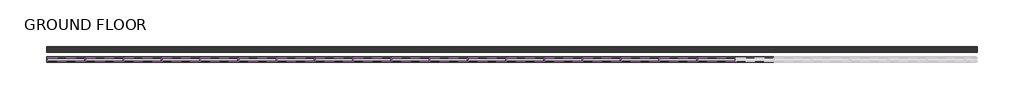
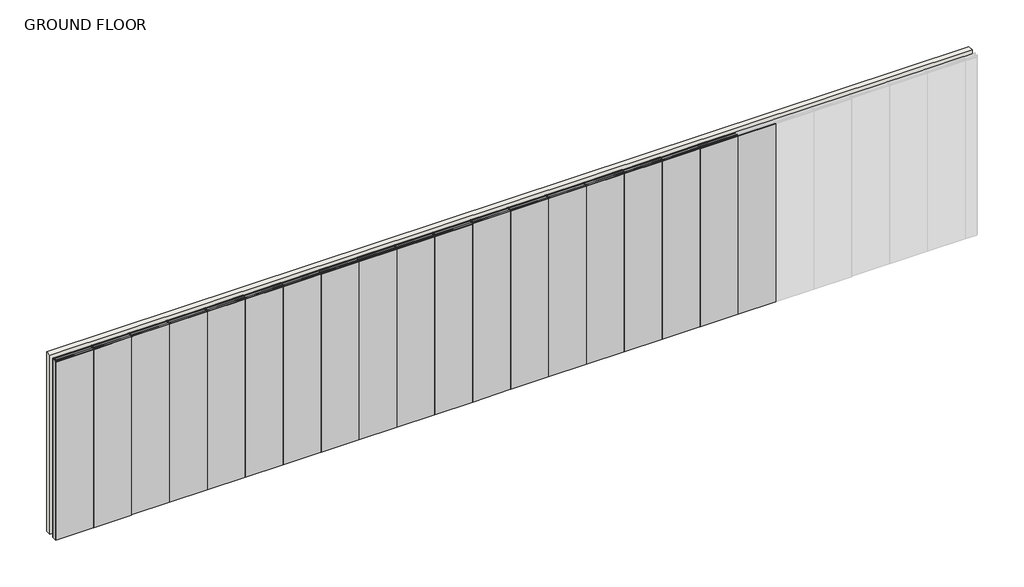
# One storey, part 1 of 2: 54 members, 19 plates, 1 wall.
"""IFC4 building model written with IfcOpenShell, lengths in millimetres."""

from ifc_helpers import new_model, si_unit, origin, origin_with_axes, place, context, project, spatial, polyline, outline, extrude, transform, mapped, element, save
from components import rectangular_mullion_stud_mullion_63mm_af775e70, rectangular_mullion_stud_mullion_63mm_2c4afd4c, rectangular_mullion_stud_mullion_63mm_ab3eab4e, rectangular_mullion_stud_mullion_63mm_08592bac, plate_2_layer_drywall_panels_2_layer_12mm_drywall_panels_e6e5b326

model = new_model("IFC4")

# Units and contexts
model_context = context("Model", 3, world=origin())
ifc_project = project(units=[si_unit("LENGTHUNIT", "METRE", prefix="MILLI")], contexts=[model_context])

# Site, building, storey
site = spatial("IfcSite", under=ifc_project)
building = spatial("IfcBuilding", under=site)
storey = spatial("IfcBuildingStorey", under=building, Name="GROUND FLOOR", Elevation=0.0)

# Members
placement = place(None, origin())
rectangular_mullion_stud_mullion_63mm_shape = rectangular_mullion_stud_mullion_63mm_af775e70(model_context)
element("IfcMember", 1, ObjectType="Rectangular Mullion : Stud Mullion - 63mm", at=placement, inside=storey, context=model_context, shape_type="MappedRepresentation", body=[
    mapped(rectangular_mullion_stud_mullion_63mm_shape, transform((61654.5186508, -13259.4010443, 0.0), x_axis=(0.0, 0.0, -1.0), y_axis=(0.0, -1.0, 0.0), z_axis=(-1.0, 0.0, 0.0))),
])
element("IfcMember", 2, ObjectType="Rectangular Mullion : Stud Mullion - 63mm", at=placement, inside=storey, context=model_context, shape_type="MappedRepresentation", body=[
    mapped(rectangular_mullion_stud_mullion_63mm_shape, transform((62254.5186511, -13259.4010443, 0.0), x_axis=(0.0, 0.0, -1.0), y_axis=(0.0, -1.0, 0.0), z_axis=(-1.0, 0.0, 0.0))),
])
element("IfcMember", 3, ObjectType="Rectangular Mullion : Stud Mullion - 63mm", at=placement, inside=storey, context=model_context, shape_type="MappedRepresentation", body=[
    mapped(rectangular_mullion_stud_mullion_63mm_shape, transform((62854.5186511, -13259.4010443, 0.0), x_axis=(0.0, 0.0, -1.0), y_axis=(0.0, -1.0, 0.0), z_axis=(-1.0, 0.0, 0.0))),
])
element("IfcMember", 4, ObjectType="Rectangular Mullion : Stud Mullion - 63mm", at=placement, inside=storey, context=model_context, shape_type="MappedRepresentation", body=[
    mapped(rectangular_mullion_stud_mullion_63mm_shape, transform((63454.5186511, -13259.4010443, 0.0), x_axis=(0.0, 0.0, -1.0), y_axis=(0.0, -1.0, 0.0), z_axis=(-1.0, 0.0, 0.0))),
])
element("IfcMember", 5, ObjectType="Rectangular Mullion : Stud Mullion - 63mm", at=placement, inside=storey, context=model_context, shape_type="MappedRepresentation", body=[
    mapped(rectangular_mullion_stud_mullion_63mm_shape, transform((64054.5186511, -13259.4010443, 0.0), x_axis=(0.0, 0.0, -1.0), y_axis=(0.0, -1.0, 0.0), z_axis=(-1.0, 0.0, 0.0))),
])
element("IfcMember", 6, ObjectType="Rectangular Mullion : Stud Mullion - 63mm", at=placement, inside=storey, context=model_context, shape_type="MappedRepresentation", body=[
    mapped(rectangular_mullion_stud_mullion_63mm_shape, transform((64654.5186511, -13259.4010443, 0.0), x_axis=(0.0, 0.0, -1.0), y_axis=(0.0, -1.0, 0.0), z_axis=(-1.0, 0.0, 0.0))),
])
element("IfcMember", 7, ObjectType="Rectangular Mullion : Stud Mullion - 63mm", at=placement, inside=storey, context=model_context, shape_type="MappedRepresentation", body=[
    mapped(rectangular_mullion_stud_mullion_63mm_shape, transform((65254.5186511, -13259.4010443, 0.0), x_axis=(0.0, 0.0, -1.0), y_axis=(0.0, -1.0, 0.0), z_axis=(-1.0, 0.0, 0.0))),
])
element("IfcMember", 8, ObjectType="Rectangular Mullion : Stud Mullion - 63mm", at=placement, inside=storey, context=model_context, shape_type="MappedRepresentation", body=[
    mapped(rectangular_mullion_stud_mullion_63mm_shape, transform((65854.5186511, -13259.4010443, 0.0), x_axis=(0.0, 0.0, -1.0), y_axis=(0.0, -1.0, 0.0), z_axis=(-1.0, 0.0, 0.0))),
])
element("IfcMember", 9, ObjectType="Rectangular Mullion : Stud Mullion - 63mm", at=placement, inside=storey, context=model_context, shape_type="MappedRepresentation", body=[
    mapped(rectangular_mullion_stud_mullion_63mm_shape, transform((66454.5186511, -13259.4010443, 0.0), x_axis=(0.0, 0.0, -1.0), y_axis=(0.0, -1.0, 0.0), z_axis=(-1.0, 0.0, 0.0))),
])
element("IfcMember", 10, ObjectType="Rectangular Mullion : Stud Mullion - 63mm", at=placement, inside=storey, context=model_context, shape_type="MappedRepresentation", body=[
    mapped(rectangular_mullion_stud_mullion_63mm_shape, transform((67054.5186511, -13259.4010443, 0.0), x_axis=(0.0, 0.0, -1.0), y_axis=(0.0, -1.0, 0.0), z_axis=(-1.0, 0.0, 0.0))),
])
element("IfcMember", 11, ObjectType="Rectangular Mullion : Stud Mullion - 63mm", at=placement, inside=storey, context=model_context, shape_type="MappedRepresentation", body=[
    mapped(rectangular_mullion_stud_mullion_63mm_shape, transform((67654.5186511, -13259.4010443, 0.0), x_axis=(0.0, 0.0, -1.0), y_axis=(0.0, -1.0, 0.0), z_axis=(-1.0, 0.0, 0.0))),
])
element("IfcMember", 12, ObjectType="Rectangular Mullion : Stud Mullion - 63mm", at=placement, inside=storey, context=model_context, shape_type="MappedRepresentation", body=[
    mapped(rectangular_mullion_stud_mullion_63mm_shape, transform((68254.5186511, -13259.4010443, 0.0), x_axis=(0.0, 0.0, -1.0), y_axis=(0.0, -1.0, 0.0), z_axis=(-1.0, 0.0, 0.0))),
])
element("IfcMember", 13, ObjectType="Rectangular Mullion : Stud Mullion - 63mm", at=placement, inside=storey, context=model_context, shape_type="MappedRepresentation", body=[
    mapped(rectangular_mullion_stud_mullion_63mm_shape, transform((68854.5186511, -13259.4010443, 0.0), x_axis=(0.0, 0.0, -1.0), y_axis=(0.0, -1.0, 0.0), z_axis=(-1.0, 0.0, 0.0))),
])
element("IfcMember", 14, ObjectType="Rectangular Mullion : Stud Mullion - 63mm", at=placement, inside=storey, context=model_context, shape_type="MappedRepresentation", body=[
    mapped(rectangular_mullion_stud_mullion_63mm_shape, transform((69454.5186511, -13259.4010443, 0.0), x_axis=(0.0, 0.0, -1.0), y_axis=(0.0, -1.0, 0.0), z_axis=(-1.0, 0.0, 0.0))),
])
element("IfcMember", 15, ObjectType="Rectangular Mullion : Stud Mullion - 63mm", at=placement, inside=storey, context=model_context, shape_type="MappedRepresentation", body=[
    mapped(rectangular_mullion_stud_mullion_63mm_shape, transform((70054.5186511, -13259.4010443, 0.0), x_axis=(0.0, 0.0, -1.0), y_axis=(0.0, -1.0, 0.0), z_axis=(-1.0, 0.0, 0.0))),
])
element("IfcMember", 16, ObjectType="Rectangular Mullion : Stud Mullion - 63mm", at=placement, inside=storey, context=model_context, shape_type="MappedRepresentation", body=[
    mapped(rectangular_mullion_stud_mullion_63mm_shape, transform((70654.5186511, -13259.4010443, 0.0), x_axis=(0.0, 0.0, -1.0), y_axis=(0.0, -1.0, 0.0), z_axis=(-1.0, 0.0, 0.0))),
])
element("IfcMember", 17, ObjectType="Rectangular Mullion : Stud Mullion - 63mm", at=placement, inside=storey, context=model_context, shape_type="MappedRepresentation", body=[
    mapped(rectangular_mullion_stud_mullion_63mm_shape, transform((71254.5186511, -13259.4010443, 0.0), x_axis=(0.0, 0.0, -1.0), y_axis=(0.0, -1.0, 0.0), z_axis=(-1.0, 0.0, 0.0))),
])
element("IfcMember", 18, ObjectType="Rectangular Mullion : Stud Mullion - 63mm", at=placement, inside=storey, context=model_context, shape_type="MappedRepresentation", body=[
    mapped(rectangular_mullion_stud_mullion_63mm_shape, transform((71854.5186511, -13259.4010443, 0.0), x_axis=(0.0, 0.0, -1.0), y_axis=(0.0, -1.0, 0.0), z_axis=(-1.0, 0.0, 0.0))),
])
rectangular_mullion_stud_mullion_63mm_2_shape = rectangular_mullion_stud_mullion_63mm_2c4afd4c(model_context)
element("IfcMember", 19, ObjectType="Rectangular Mullion : Stud Mullion - 63mm", at=placement, inside=storey, context=model_context, shape_type="MappedRepresentation", body=[
    mapped(rectangular_mullion_stud_mullion_63mm_2_shape, transform((61635.5186508, -13259.4010443, 3000.0), x_axis=(-1.0, 0.0, 0.0), y_axis=(0.0, -1.0, 0.0), z_axis=(0.0, 0.0, 1.0))),
])
rectangular_mullion_stud_mullion_63mm_3_shape = rectangular_mullion_stud_mullion_63mm_ab3eab4e(model_context)
element("IfcMember", 20, ObjectType="Rectangular Mullion : Stud Mullion - 63mm", at=placement, inside=storey, context=model_context, shape_type="MappedRepresentation", body=[
    mapped(rectangular_mullion_stud_mullion_63mm_3_shape, transform((62235.5186511, -13259.4010443, 3000.0), x_axis=(0.0, 0.0, 1.0), y_axis=(0.0, -1.0, 0.0), z_axis=(1.0, 0.0, 0.0))),
])
element("IfcMember", 21, ObjectType="Rectangular Mullion : Stud Mullion - 63mm", at=placement, inside=storey, context=model_context, shape_type="MappedRepresentation", body=[
    mapped(rectangular_mullion_stud_mullion_63mm_3_shape, transform((62835.5186511, -13259.4010443, 3000.0), x_axis=(0.0, 0.0, 1.0), y_axis=(0.0, -1.0, 0.0), z_axis=(1.0, 0.0, 0.0))),
])
element("IfcMember", 22, ObjectType="Rectangular Mullion : Stud Mullion - 63mm", at=placement, inside=storey, context=model_context, shape_type="MappedRepresentation", body=[
    mapped(rectangular_mullion_stud_mullion_63mm_3_shape, transform((63435.5186511, -13259.4010443, 3000.0), x_axis=(0.0, 0.0, 1.0), y_axis=(0.0, -1.0, 0.0), z_axis=(1.0, 0.0, 0.0))),
])
element("IfcMember", 23, ObjectType="Rectangular Mullion : Stud Mullion - 63mm", at=placement, inside=storey, context=model_context, shape_type="MappedRepresentation", body=[
    mapped(rectangular_mullion_stud_mullion_63mm_3_shape, transform((64035.5186511, -13259.4010443, 3000.0), x_axis=(0.0, 0.0, 1.0), y_axis=(0.0, -1.0, 0.0), z_axis=(1.0, 0.0, 0.0))),
])
element("IfcMember", 24, ObjectType="Rectangular Mullion : Stud Mullion - 63mm", at=placement, inside=storey, context=model_context, shape_type="MappedRepresentation", body=[
    mapped(rectangular_mullion_stud_mullion_63mm_3_shape, transform((64635.5186511, -13259.4010443, 3000.0), x_axis=(0.0, 0.0, 1.0), y_axis=(0.0, -1.0, 0.0), z_axis=(1.0, 0.0, 0.0))),
])
element("IfcMember", 25, ObjectType="Rectangular Mullion : Stud Mullion - 63mm", at=placement, inside=storey, context=model_context, shape_type="MappedRepresentation", body=[
    mapped(rectangular_mullion_stud_mullion_63mm_3_shape, transform((65235.5186511, -13259.4010443, 3000.0), x_axis=(0.0, 0.0, 1.0), y_axis=(0.0, -1.0, 0.0), z_axis=(1.0, 0.0, 0.0))),
])
element("IfcMember", 26, ObjectType="Rectangular Mullion : Stud Mullion - 63mm", at=placement, inside=storey, context=model_context, shape_type="MappedRepresentation", body=[
    mapped(rectangular_mullion_stud_mullion_63mm_3_shape, transform((65835.5186511, -13259.4010443, 3000.0), x_axis=(0.0, 0.0, 1.0), y_axis=(0.0, -1.0, 0.0), z_axis=(1.0, 0.0, 0.0))),
])
element("IfcMember", 27, ObjectType="Rectangular Mullion : Stud Mullion - 63mm", at=placement, inside=storey, context=model_context, shape_type="MappedRepresentation", body=[
    mapped(rectangular_mullion_stud_mullion_63mm_3_shape, transform((66435.5186511, -13259.4010443, 3000.0), x_axis=(0.0, 0.0, 1.0), y_axis=(0.0, -1.0, 0.0), z_axis=(1.0, 0.0, 0.0))),
])
element("IfcMember", 28, ObjectType="Rectangular Mullion : Stud Mullion - 63mm", at=placement, inside=storey, context=model_context, shape_type="MappedRepresentation", body=[
    mapped(rectangular_mullion_stud_mullion_63mm_3_shape, transform((67035.5186511, -13259.4010443, 3000.0), x_axis=(0.0, 0.0, 1.0), y_axis=(0.0, -1.0, 0.0), z_axis=(1.0, 0.0, 0.0))),
])
element("IfcMember", 29, ObjectType="Rectangular Mullion : Stud Mullion - 63mm", at=placement, inside=storey, context=model_context, shape_type="MappedRepresentation", body=[
    mapped(rectangular_mullion_stud_mullion_63mm_3_shape, transform((67635.5186511, -13259.4010443, 3000.0), x_axis=(0.0, 0.0, 1.0), y_axis=(0.0, -1.0, 0.0), z_axis=(1.0, 0.0, 0.0))),
])
element("IfcMember", 30, ObjectType="Rectangular Mullion : Stud Mullion - 63mm", at=placement, inside=storey, context=model_context, shape_type="MappedRepresentation", body=[
    mapped(rectangular_mullion_stud_mullion_63mm_3_shape, transform((68235.5186511, -13259.4010443, 3000.0), x_axis=(0.0, 0.0, 1.0), y_axis=(0.0, -1.0, 0.0), z_axis=(1.0, 0.0, 0.0))),
])
element("IfcMember", 31, ObjectType="Rectangular Mullion : Stud Mullion - 63mm", at=placement, inside=storey, context=model_context, shape_type="MappedRepresentation", body=[
    mapped(rectangular_mullion_stud_mullion_63mm_3_shape, transform((68835.5186511, -13259.4010443, 3000.0), x_axis=(0.0, 0.0, 1.0), y_axis=(0.0, -1.0, 0.0), z_axis=(1.0, 0.0, 0.0))),
])
element("IfcMember", 32, ObjectType="Rectangular Mullion : Stud Mullion - 63mm", at=placement, inside=storey, context=model_context, shape_type="MappedRepresentation", body=[
    mapped(rectangular_mullion_stud_mullion_63mm_3_shape, transform((69435.5186511, -13259.4010443, 3000.0), x_axis=(0.0, 0.0, 1.0), y_axis=(0.0, -1.0, 0.0), z_axis=(1.0, 0.0, 0.0))),
])
element("IfcMember", 33, ObjectType="Rectangular Mullion : Stud Mullion - 63mm", at=placement, inside=storey, context=model_context, shape_type="MappedRepresentation", body=[
    mapped(rectangular_mullion_stud_mullion_63mm_3_shape, transform((70035.5186511, -13259.4010443, 3000.0), x_axis=(0.0, 0.0, 1.0), y_axis=(0.0, -1.0, 0.0), z_axis=(1.0, 0.0, 0.0))),
])
element("IfcMember", 34, ObjectType="Rectangular Mullion : Stud Mullion - 63mm", at=placement, inside=storey, context=model_context, shape_type="MappedRepresentation", body=[
    mapped(rectangular_mullion_stud_mullion_63mm_3_shape, transform((70635.5186511, -13259.4010443, 3000.0), x_axis=(0.0, 0.0, 1.0), y_axis=(0.0, -1.0, 0.0), z_axis=(1.0, 0.0, 0.0))),
])
element("IfcMember", 35, ObjectType="Rectangular Mullion : Stud Mullion - 63mm", at=placement, inside=storey, context=model_context, shape_type="MappedRepresentation", body=[
    mapped(rectangular_mullion_stud_mullion_63mm_3_shape, transform((71235.5186511, -13259.4010443, 3000.0), x_axis=(0.0, 0.0, 1.0), y_axis=(0.0, -1.0, 0.0), z_axis=(1.0, 0.0, 0.0))),
])
element("IfcMember", 36, ObjectType="Rectangular Mullion : Stud Mullion - 63mm", at=placement, inside=storey, context=model_context, shape_type="MappedRepresentation", body=[
    mapped(rectangular_mullion_stud_mullion_63mm_3_shape, transform((71835.5186511, -13259.4010443, 3000.0), x_axis=(0.0, 0.0, 1.0), y_axis=(0.0, -1.0, 0.0), z_axis=(1.0, 0.0, 0.0))),
])
element("IfcMember", 37, ObjectType="Rectangular Mullion : Stud Mullion - 63mm", at=placement, inside=storey, context=model_context, shape_type="MappedRepresentation", body=[
    mapped(rectangular_mullion_stud_mullion_63mm_3_shape, transform((72435.5186511, -13259.4010443, 3000.0), x_axis=(0.0, 0.0, 1.0), y_axis=(0.0, -1.0, 0.0), z_axis=(1.0, 0.0, 0.0))),
])
rectangular_mullion_stud_mullion_63mm_4_shape = rectangular_mullion_stud_mullion_63mm_08592bac(model_context)
element("IfcMember", 38, ObjectType="Rectangular Mullion : Stud Mullion - 63mm", at=placement, inside=storey, context=model_context, shape_type="MappedRepresentation", body=[
    mapped(rectangular_mullion_stud_mullion_63mm_4_shape, transform((62245.0186511, -13259.4010443, 0.0), x_axis=(1.0, 0.0, 0.0), y_axis=(0.0, -1.0, 0.0), z_axis=(0.0, 0.0, -1.0))),
])
element("IfcMember", 39, ObjectType="Rectangular Mullion : Stud Mullion - 63mm", at=placement, inside=storey, context=model_context, shape_type="MappedRepresentation", body=[
    mapped(rectangular_mullion_stud_mullion_63mm_4_shape, transform((62845.0186511, -13259.4010443, 0.0), x_axis=(1.0, 0.0, 0.0), y_axis=(0.0, -1.0, 0.0), z_axis=(0.0, 0.0, -1.0))),
])
element("IfcMember", 40, ObjectType="Rectangular Mullion : Stud Mullion - 63mm", at=placement, inside=storey, context=model_context, shape_type="MappedRepresentation", body=[
    mapped(rectangular_mullion_stud_mullion_63mm_4_shape, transform((63445.0186511, -13259.4010443, 0.0), x_axis=(1.0, 0.0, 0.0), y_axis=(0.0, -1.0, 0.0), z_axis=(0.0, 0.0, -1.0))),
])
element("IfcMember", 41, ObjectType="Rectangular Mullion : Stud Mullion - 63mm", at=placement, inside=storey, context=model_context, shape_type="MappedRepresentation", body=[
    mapped(rectangular_mullion_stud_mullion_63mm_4_shape, transform((64045.0186511, -13259.4010443, 0.0), x_axis=(1.0, 0.0, 0.0), y_axis=(0.0, -1.0, 0.0), z_axis=(0.0, 0.0, -1.0))),
])
element("IfcMember", 42, ObjectType="Rectangular Mullion : Stud Mullion - 63mm", at=placement, inside=storey, context=model_context, shape_type="MappedRepresentation", body=[
    mapped(rectangular_mullion_stud_mullion_63mm_4_shape, transform((64645.0186511, -13259.4010443, 0.0), x_axis=(1.0, 0.0, 0.0), y_axis=(0.0, -1.0, 0.0), z_axis=(0.0, 0.0, -1.0))),
])
element("IfcMember", 43, ObjectType="Rectangular Mullion : Stud Mullion - 63mm", at=placement, inside=storey, context=model_context, shape_type="MappedRepresentation", body=[
    mapped(rectangular_mullion_stud_mullion_63mm_4_shape, transform((65245.0186511, -13259.4010443, 0.0), x_axis=(1.0, 0.0, 0.0), y_axis=(0.0, -1.0, 0.0), z_axis=(0.0, 0.0, -1.0))),
])
element("IfcMember", 44, ObjectType="Rectangular Mullion : Stud Mullion - 63mm", at=placement, inside=storey, context=model_context, shape_type="MappedRepresentation", body=[
    mapped(rectangular_mullion_stud_mullion_63mm_4_shape, transform((65845.0186511, -13259.4010443, 0.0), x_axis=(1.0, 0.0, 0.0), y_axis=(0.0, -1.0, 0.0), z_axis=(0.0, 0.0, -1.0))),
])
element("IfcMember", 45, ObjectType="Rectangular Mullion : Stud Mullion - 63mm", at=placement, inside=storey, context=model_context, shape_type="MappedRepresentation", body=[
    mapped(rectangular_mullion_stud_mullion_63mm_4_shape, transform((66445.0186511, -13259.4010443, 0.0), x_axis=(1.0, 0.0, 0.0), y_axis=(0.0, -1.0, 0.0), z_axis=(0.0, 0.0, -1.0))),
])
element("IfcMember", 46, ObjectType="Rectangular Mullion : Stud Mullion - 63mm", at=placement, inside=storey, context=model_context, shape_type="MappedRepresentation", body=[
    mapped(rectangular_mullion_stud_mullion_63mm_4_shape, transform((67045.0186511, -13259.4010443, 0.0), x_axis=(1.0, 0.0, 0.0), y_axis=(0.0, -1.0, 0.0), z_axis=(0.0, 0.0, -1.0))),
])
element("IfcMember", 47, ObjectType="Rectangular Mullion : Stud Mullion - 63mm", at=placement, inside=storey, context=model_context, shape_type="MappedRepresentation", body=[
    mapped(rectangular_mullion_stud_mullion_63mm_4_shape, transform((67645.0186511, -13259.4010443, 0.0), x_axis=(1.0, 0.0, 0.0), y_axis=(0.0, -1.0, 0.0), z_axis=(0.0, 0.0, -1.0))),
])
element("IfcMember", 48, ObjectType="Rectangular Mullion : Stud Mullion - 63mm", at=placement, inside=storey, context=model_context, shape_type="MappedRepresentation", body=[
    mapped(rectangular_mullion_stud_mullion_63mm_4_shape, transform((68245.0186511, -13259.4010443, 0.0), x_axis=(1.0, 0.0, 0.0), y_axis=(0.0, -1.0, 0.0), z_axis=(0.0, 0.0, -1.0))),
])
element("IfcMember", 49, ObjectType="Rectangular Mullion : Stud Mullion - 63mm", at=placement, inside=storey, context=model_context, shape_type="MappedRepresentation", body=[
    mapped(rectangular_mullion_stud_mullion_63mm_4_shape, transform((68845.0186511, -13259.4010443, 0.0), x_axis=(1.0, 0.0, 0.0), y_axis=(0.0, -1.0, 0.0), z_axis=(0.0, 0.0, -1.0))),
])
element("IfcMember", 50, ObjectType="Rectangular Mullion : Stud Mullion - 63mm", at=placement, inside=storey, context=model_context, shape_type="MappedRepresentation", body=[
    mapped(rectangular_mullion_stud_mullion_63mm_4_shape, transform((69445.0186511, -13259.4010443, 0.0), x_axis=(1.0, 0.0, 0.0), y_axis=(0.0, -1.0, 0.0), z_axis=(0.0, 0.0, -1.0))),
])
element("IfcMember", 51, ObjectType="Rectangular Mullion : Stud Mullion - 63mm", at=placement, inside=storey, context=model_context, shape_type="MappedRepresentation", body=[
    mapped(rectangular_mullion_stud_mullion_63mm_4_shape, transform((70045.0186511, -13259.4010443, 0.0), x_axis=(1.0, 0.0, 0.0), y_axis=(0.0, -1.0, 0.0), z_axis=(0.0, 0.0, -1.0))),
])
element("IfcMember", 52, ObjectType="Rectangular Mullion : Stud Mullion - 63mm", at=placement, inside=storey, context=model_context, shape_type="MappedRepresentation", body=[
    mapped(rectangular_mullion_stud_mullion_63mm_4_shape, transform((70645.0186511, -13259.4010443, 0.0), x_axis=(1.0, 0.0, 0.0), y_axis=(0.0, -1.0, 0.0), z_axis=(0.0, 0.0, -1.0))),
])
element("IfcMember", 53, ObjectType="Rectangular Mullion : Stud Mullion - 63mm", at=placement, inside=storey, context=model_context, shape_type="MappedRepresentation", body=[
    mapped(rectangular_mullion_stud_mullion_63mm_4_shape, transform((71245.0186511, -13259.4010443, 0.0), x_axis=(1.0, 0.0, 0.0), y_axis=(0.0, -1.0, 0.0), z_axis=(0.0, 0.0, -1.0))),
])
element("IfcMember", 54, ObjectType="Rectangular Mullion : Stud Mullion - 63mm", at=placement, inside=storey, context=model_context, shape_type="MappedRepresentation", body=[
    mapped(rectangular_mullion_stud_mullion_63mm_4_shape, transform((71845.0186511, -13259.4010443, 0.0), x_axis=(1.0, 0.0, 0.0), y_axis=(0.0, -1.0, 0.0), z_axis=(0.0, 0.0, -1.0))),
])

# Plates
plate_2_layer_drywall_panels_2_layer_12mm_drywall_panels_shape = plate_2_layer_drywall_panels_2_layer_12mm_drywall_panels_e6e5b326(model_context)
element("IfcPlate", 55, ObjectType="2 Layer - Drywall Panels : 2 Layer - 12mm Drywall Panels 89mm", at=placement, inside=storey, context=model_context, shape_type="MappedRepresentation", body=[
    mapped(plate_2_layer_drywall_panels_2_layer_12mm_drywall_panels_shape, transform((61936.318651, -13259.4010443, 1.6), x_axis=(1.0, 0.0, 0.0), y_axis=(0.0, 1.0, 0.0), z_axis=(0.0, 0.0, 1.0))),
])
element("IfcPlate", 56, ObjectType="2 Layer - Drywall Panels : 2 Layer - 12mm Drywall Panels 89mm", at=placement, inside=storey, context=model_context, shape_type="MappedRepresentation", body=[
    mapped(plate_2_layer_drywall_panels_2_layer_12mm_drywall_panels_shape, transform((62536.3186511, -13259.4010443, 1.6), x_axis=(1.0, 0.0, 0.0), y_axis=(0.0, 1.0, 0.0), z_axis=(0.0, 0.0, 1.0))),
])
element("IfcPlate", 57, ObjectType="2 Layer - Drywall Panels : 2 Layer - 12mm Drywall Panels 89mm", at=placement, inside=storey, context=model_context, shape_type="MappedRepresentation", body=[
    mapped(plate_2_layer_drywall_panels_2_layer_12mm_drywall_panels_shape, transform((63136.3186511, -13259.4010443, 1.6), x_axis=(1.0, 0.0, 0.0), y_axis=(0.0, 1.0, 0.0), z_axis=(0.0, 0.0, 1.0))),
])
element("IfcPlate", 58, ObjectType="2 Layer - Drywall Panels : 2 Layer - 12mm Drywall Panels 89mm", at=placement, inside=storey, context=model_context, shape_type="MappedRepresentation", body=[
    mapped(plate_2_layer_drywall_panels_2_layer_12mm_drywall_panels_shape, transform((63736.3186511, -13259.4010443, 1.6), x_axis=(1.0, 0.0, 0.0), y_axis=(0.0, 1.0, 0.0), z_axis=(0.0, 0.0, 1.0))),
])
element("IfcPlate", 59, ObjectType="2 Layer - Drywall Panels : 2 Layer - 12mm Drywall Panels 89mm", at=placement, inside=storey, context=model_context, shape_type="MappedRepresentation", body=[
    mapped(plate_2_layer_drywall_panels_2_layer_12mm_drywall_panels_shape, transform((64336.3186511, -13259.4010443, 1.6), x_axis=(1.0, 0.0, 0.0), y_axis=(0.0, 1.0, 0.0), z_axis=(0.0, 0.0, 1.0))),
])
element("IfcPlate", 60, ObjectType="2 Layer - Drywall Panels : 2 Layer - 12mm Drywall Panels 89mm", at=placement, inside=storey, context=model_context, shape_type="MappedRepresentation", body=[
    mapped(plate_2_layer_drywall_panels_2_layer_12mm_drywall_panels_shape, transform((64936.3186511, -13259.4010443, 1.6), x_axis=(1.0, 0.0, 0.0), y_axis=(0.0, 1.0, 0.0), z_axis=(0.0, 0.0, 1.0))),
])
element("IfcPlate", 61, ObjectType="2 Layer - Drywall Panels : 2 Layer - 12mm Drywall Panels 89mm", at=placement, inside=storey, context=model_context, shape_type="MappedRepresentation", body=[
    mapped(plate_2_layer_drywall_panels_2_layer_12mm_drywall_panels_shape, transform((65536.3186511, -13259.4010443, 1.6), x_axis=(1.0, 0.0, 0.0), y_axis=(0.0, 1.0, 0.0), z_axis=(0.0, 0.0, 1.0))),
])
element("IfcPlate", 62, ObjectType="2 Layer - Drywall Panels : 2 Layer - 12mm Drywall Panels 89mm", at=placement, inside=storey, context=model_context, shape_type="MappedRepresentation", body=[
    mapped(plate_2_layer_drywall_panels_2_layer_12mm_drywall_panels_shape, transform((66136.3186511, -13259.4010443, 1.6), x_axis=(1.0, 0.0, 0.0), y_axis=(0.0, 1.0, 0.0), z_axis=(0.0, 0.0, 1.0))),
])
element("IfcPlate", 63, ObjectType="2 Layer - Drywall Panels : 2 Layer - 12mm Drywall Panels 89mm", at=placement, inside=storey, context=model_context, shape_type="MappedRepresentation", body=[
    mapped(plate_2_layer_drywall_panels_2_layer_12mm_drywall_panels_shape, transform((66736.3186511, -13259.4010443, 1.6), x_axis=(1.0, 0.0, 0.0), y_axis=(0.0, 1.0, 0.0), z_axis=(0.0, 0.0, 1.0))),
])
element("IfcPlate", 64, ObjectType="2 Layer - Drywall Panels : 2 Layer - 12mm Drywall Panels 89mm", at=placement, inside=storey, context=model_context, shape_type="MappedRepresentation", body=[
    mapped(plate_2_layer_drywall_panels_2_layer_12mm_drywall_panels_shape, transform((67336.3186511, -13259.4010443, 1.6), x_axis=(1.0, 0.0, 0.0), y_axis=(0.0, 1.0, 0.0), z_axis=(0.0, 0.0, 1.0))),
])
element("IfcPlate", 65, ObjectType="2 Layer - Drywall Panels : 2 Layer - 12mm Drywall Panels 89mm", at=placement, inside=storey, context=model_context, shape_type="MappedRepresentation", body=[
    mapped(plate_2_layer_drywall_panels_2_layer_12mm_drywall_panels_shape, transform((67936.3186511, -13259.4010443, 1.6), x_axis=(1.0, 0.0, 0.0), y_axis=(0.0, 1.0, 0.0), z_axis=(0.0, 0.0, 1.0))),
])
element("IfcPlate", 66, ObjectType="2 Layer - Drywall Panels : 2 Layer - 12mm Drywall Panels 89mm", at=placement, inside=storey, context=model_context, shape_type="MappedRepresentation", body=[
    mapped(plate_2_layer_drywall_panels_2_layer_12mm_drywall_panels_shape, transform((68536.3186511, -13259.4010443, 1.6), x_axis=(1.0, 0.0, 0.0), y_axis=(0.0, 1.0, 0.0), z_axis=(0.0, 0.0, 1.0))),
])
element("IfcPlate", 67, ObjectType="2 Layer - Drywall Panels : 2 Layer - 12mm Drywall Panels 89mm", at=placement, inside=storey, context=model_context, shape_type="MappedRepresentation", body=[
    mapped(plate_2_layer_drywall_panels_2_layer_12mm_drywall_panels_shape, transform((69136.3186511, -13259.4010443, 1.6), x_axis=(1.0, 0.0, 0.0), y_axis=(0.0, 1.0, 0.0), z_axis=(0.0, 0.0, 1.0))),
])
element("IfcPlate", 68, ObjectType="2 Layer - Drywall Panels : 2 Layer - 12mm Drywall Panels 89mm", at=placement, inside=storey, context=model_context, shape_type="MappedRepresentation", body=[
    mapped(plate_2_layer_drywall_panels_2_layer_12mm_drywall_panels_shape, transform((69736.3186511, -13259.4010443, 1.6), x_axis=(1.0, 0.0, 0.0), y_axis=(0.0, 1.0, 0.0), z_axis=(0.0, 0.0, 1.0))),
])
element("IfcPlate", 69, ObjectType="2 Layer - Drywall Panels : 2 Layer - 12mm Drywall Panels 89mm", at=placement, inside=storey, context=model_context, shape_type="MappedRepresentation", body=[
    mapped(plate_2_layer_drywall_panels_2_layer_12mm_drywall_panels_shape, transform((70336.3186511, -13259.4010443, 1.6), x_axis=(1.0, 0.0, 0.0), y_axis=(0.0, 1.0, 0.0), z_axis=(0.0, 0.0, 1.0))),
])
element("IfcPlate", 70, ObjectType="2 Layer - Drywall Panels : 2 Layer - 12mm Drywall Panels 89mm", at=placement, inside=storey, context=model_context, shape_type="MappedRepresentation", body=[
    mapped(plate_2_layer_drywall_panels_2_layer_12mm_drywall_panels_shape, transform((70936.3186511, -13259.4010443, 1.6), x_axis=(1.0, 0.0, 0.0), y_axis=(0.0, 1.0, 0.0), z_axis=(0.0, 0.0, 1.0))),
])
element("IfcPlate", 71, ObjectType="2 Layer - Drywall Panels : 2 Layer - 12mm Drywall Panels 89mm", at=placement, inside=storey, context=model_context, shape_type="MappedRepresentation", body=[
    mapped(plate_2_layer_drywall_panels_2_layer_12mm_drywall_panels_shape, transform((71536.3186511, -13259.4010443, 1.6), x_axis=(1.0, 0.0, 0.0), y_axis=(0.0, 1.0, 0.0), z_axis=(0.0, 0.0, 1.0))),
])
element("IfcPlate", 72, ObjectType="2 Layer - Drywall Panels : 2 Layer - 12mm Drywall Panels 89mm", at=placement, inside=storey, context=model_context, shape_type="MappedRepresentation", body=[
    mapped(plate_2_layer_drywall_panels_2_layer_12mm_drywall_panels_shape, transform((72136.3186511, -13259.4010443, 1.6), x_axis=(1.0, 0.0, 0.0), y_axis=(0.0, 1.0, 0.0), z_axis=(0.0, 0.0, 1.0))),
])
element("IfcPlate", 73, ObjectType="2 Layer - Drywall Panels : 2 Layer - 12mm Drywall Panels 89mm", at=placement, inside=storey, context=model_context, shape_type="MappedRepresentation", body=[
    mapped(plate_2_layer_drywall_panels_2_layer_12mm_drywall_panels_shape, transform((72736.3186511, -13259.4010443, 1.6), x_axis=(1.0, 0.0, 0.0), y_axis=(0.0, 1.0, 0.0), z_axis=(0.0, 0.0, 1.0))),
])

# Wall
element("IfcWall", 74, ObjectType="PW04 - JUMBO DryWALL 63/30", at=placement, inside=storey, context=model_context, shape_type="SweptSolid", body=[
    extrude(outline(polyline([(76235.5186508, -13143.9010443), (61635.5186508, -13143.9010443), (61635.5186508, -13054.9010443), (76235.5186508, -13054.9010443), (76235.5186508, -13143.9010443)])), origin_with_axes(), (0.0, 0.0, 1.0), 3000.0),
])

save(model, "model.ifc")
